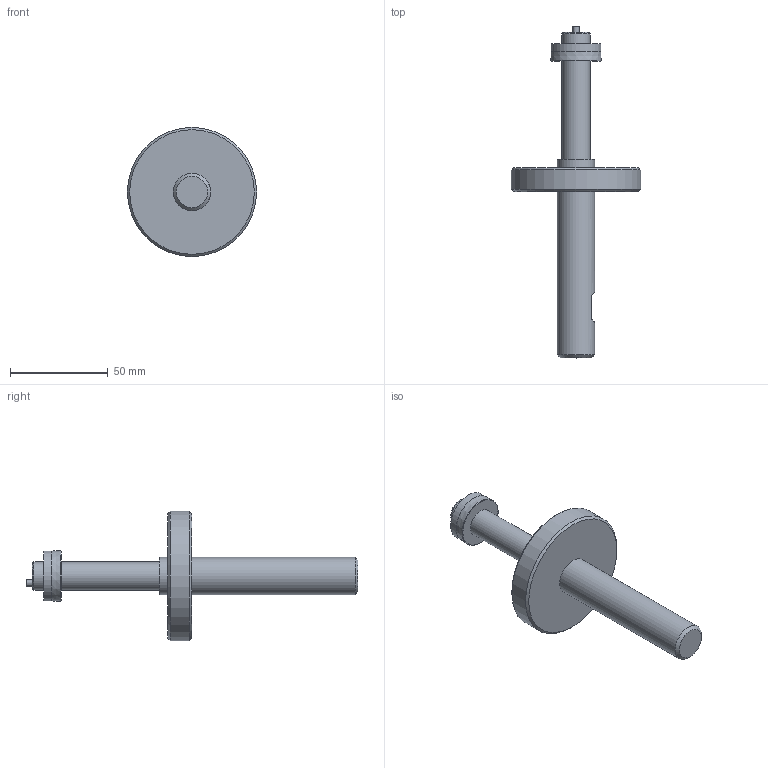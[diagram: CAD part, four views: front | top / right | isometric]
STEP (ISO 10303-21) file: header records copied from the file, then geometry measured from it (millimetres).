
FILE_DESCRIPTION (( 'STEP AP203' ), '1' );
FILE_NAME ('AF56-SIMPLE - AF56-14.50-26.00M.step', '2025-01-22T13:31:13', ( '' ), ( '' ), 'SwSTEP 2.0', 'SolidWorks 2024', '' );
FILE_SCHEMA (( 'CONFIG_CONTROL_DESIGN' ));
Length unit declared in the file: inch
Products named in the file (1): AF56-SIMPLE - AF56-14.50-26.00M
Bounding box: 66.04 x 169.8 x 66.04 mm (x, y, z)
Volume: 80448.7 mm3; surface area: 18366.9 mm2
Topology: 1 solids, 1 shells, 24 faces, 40 edges, 25 vertices
Faces by surface type: plane 11, cylinder 7, cone 5, torus 1
Full cylindrical faces by diameter (mm): 3.175 x1, 14.376 x2, 19.05 x2, 25.494 x1, 66.04 x1
Entity records: 569 total; most frequent: DIRECTION 94, CARTESIAN_POINT 81, ORIENTED_EDGE 52, AXIS2_PLACEMENT_3D 45, EDGE_LOOP 44, FACE_OUTER_BOUND 32, EDGE_CURVE 26, VERTEX_POINT 24
